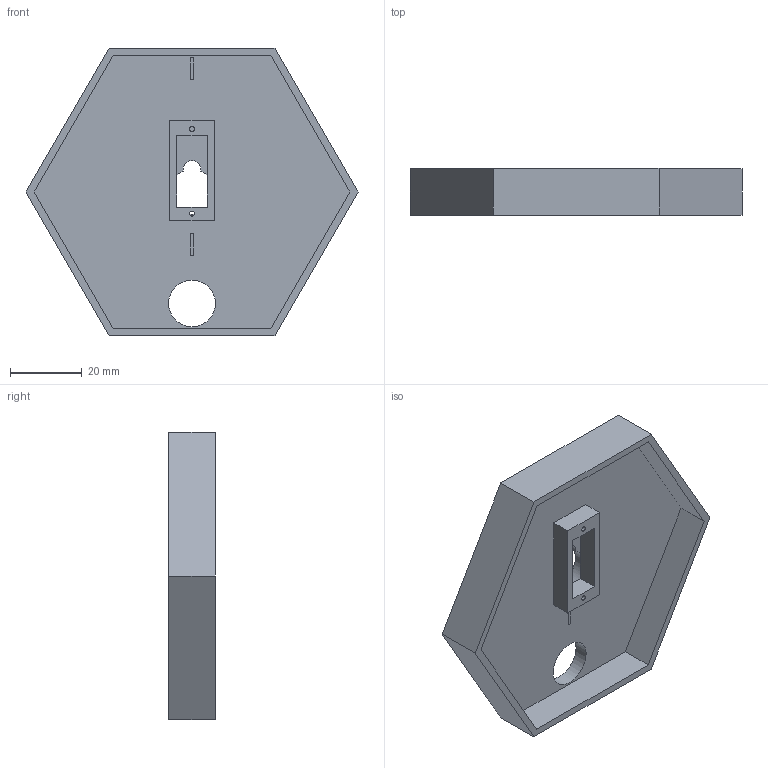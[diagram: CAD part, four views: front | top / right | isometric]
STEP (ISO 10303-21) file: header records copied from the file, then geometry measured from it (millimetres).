
FILE_DESCRIPTION(/* description */ (''),/* implementation_level */ '2;1');
FILE_NAME(/* name */ '/Users/simonhu/OneDrive - FH JOANNEUM/5Semsester/Projekt/3D/turret_final/base.step',/* time_stamp */ '2022-01-27T19:24:51+01:00',/* author */ (''),/* organization */ (''),/* preprocessor_version */ 'ST-DEVELOPER v18.1',/* originating_system */ 'Autodesk Translation Framework v10.13.0.1454',/* authorisation */ '');
FILE_SCHEMA (('AUTOMOTIVE_DESIGN { 1 0 10303 214 3 1 1 }'));
Length unit declared in the file: millimetre
Products named in the file (1): servo_arm
Bounding box: 92.38 x 13 x 80 mm (x, y, z)
Volume: 26941.9 mm3; surface area: 17755.5 mm2
Topology: 1 solids, 1 shells, 43 faces, 113 edges, 74 vertices
Faces by surface type: plane 38, cylinder 5
Full cylindrical faces by diameter (mm): 1.4 x2, 13 x1
Entity records: 1369 total; most frequent: CARTESIAN_POINT 231, ORIENTED_EDGE 226, DIRECTION 219, EDGE_CURVE 113, LINE 95, VECTOR 95, VERTEX_POINT 74, AXIS2_PLACEMENT_3D 62
